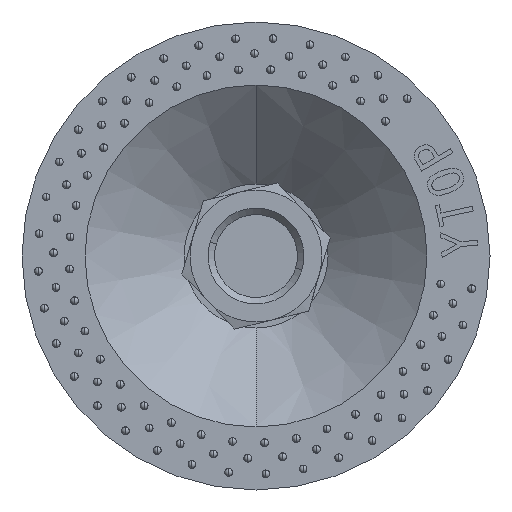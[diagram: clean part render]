
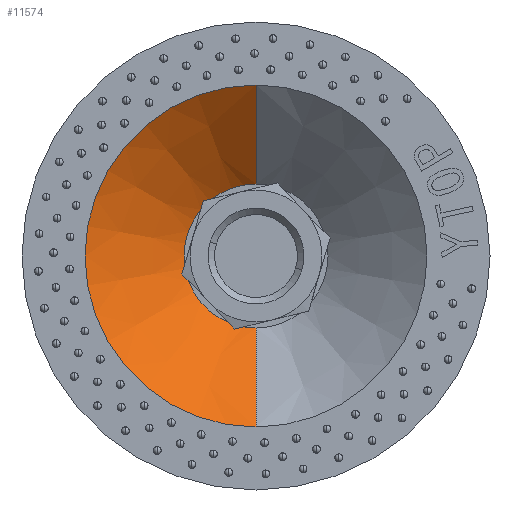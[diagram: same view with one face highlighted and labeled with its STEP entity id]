
A CAD part, front view. The second image highlights one B-rep face of the part: STEP entity #11574.
In plain terms, the highlighted conical face has half-angle 49.079 degrees and reference radius 28.5 mm.
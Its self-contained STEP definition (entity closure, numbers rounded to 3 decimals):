
#24 = LINE ( 'NONE', #17640, #8660 ) ;
#449 = EDGE_CURVE ( 'NONE', #18721, #15005, #18374, .T. ) ;
#882 = ORIENTED_EDGE ( 'NONE', *, *, #3978, .F. ) ;
#3881 = DIRECTION ( 'NONE',  ( 0., 0., 1. ) ) ;
#3978 = EDGE_CURVE ( 'NONE', #18721, #4418, #9339, .T. ) ;
#4338 = CARTESIAN_POINT ( 'NONE',  ( 0., 5.597, -28.5 ) ) ;
#4418 = VERTEX_POINT ( 'NONE', #4691 ) ;
#4691 = CARTESIAN_POINT ( 'NONE',  ( 0., 5.597, -28.5 ) ) ;
#5044 = VECTOR ( 'NONE', #5993, 1000. ) ;
#5108 = FACE_OUTER_BOUND ( 'NONE', #9588, .T. ) ;
#5993 = DIRECTION ( 'NONE',  ( 0., -0.655, -0.756 ) ) ;
#6347 = AXIS2_PLACEMENT_3D ( 'NONE', #18431, #15106, #3881 ) ;
#7340 = CARTESIAN_POINT ( 'NONE',  ( 0., 5.597, 0. ) ) ;
#8278 = CARTESIAN_POINT ( 'NONE',  ( 0., 19.9, 12. ) ) ;
#8660 = VECTOR ( 'NONE', #12699, 1000. ) ;
#9339 = LINE ( 'NONE', #4338, #5044 ) ;
#9588 = EDGE_LOOP ( 'NONE', ( #18000, #13217, #18410, #882 ) ) ;
#9630 = CARTESIAN_POINT ( 'NONE',  ( 0., 19.9, -12. ) ) ;
#10581 = DIRECTION ( 'NONE',  ( 0., 1., 0. ) ) ;
#11443 = CARTESIAN_POINT ( 'NONE',  ( 0., 5.597, 0. ) ) ;
#11574 = ADVANCED_FACE ( 'NONE', ( #5108 ), #15146, .F. ) ;
#11703 = CIRCLE ( 'NONE', #14765, 28.5 ) ;
#11897 = AXIS2_PLACEMENT_3D ( 'NONE', #11443, #16314, #14749 ) ;
#12699 = DIRECTION ( 'NONE',  ( 0., -0.655, 0.756 ) ) ;
#12710 = VERTEX_POINT ( 'NONE', #20707 ) ;
#13217 = ORIENTED_EDGE ( 'NONE', *, *, #15350, .T. ) ;
#14229 = EDGE_CURVE ( 'NONE', #4418, #12710, #11703, .T. ) ;
#14749 = DIRECTION ( 'NONE',  ( 0., 0., -1. ) ) ;
#14765 = AXIS2_PLACEMENT_3D ( 'NONE', #7340, #10581, #18626 ) ;
#15005 = VERTEX_POINT ( 'NONE', #8278 ) ;
#15106 = DIRECTION ( 'NONE',  ( 0., 1., 0. ) ) ;
#15146 = CONICAL_SURFACE ( 'NONE', #11897, 28.5, 0.857 ) ;
#15350 = EDGE_CURVE ( 'NONE', #15005, #12710, #24, .T. ) ;
#16314 = DIRECTION ( 'NONE',  ( 0., -1., 0. ) ) ;
#17640 = CARTESIAN_POINT ( 'NONE',  ( 0., 5.597, 28.5 ) ) ;
#18000 = ORIENTED_EDGE ( 'NONE', *, *, #449, .T. ) ;
#18374 = CIRCLE ( 'NONE', #6347, 12. ) ;
#18410 = ORIENTED_EDGE ( 'NONE', *, *, #14229, .F. ) ;
#18431 = CARTESIAN_POINT ( 'NONE',  ( 0., 19.9, 0. ) ) ;
#18626 = DIRECTION ( 'NONE',  ( 0., 0., 1. ) ) ;
#18721 = VERTEX_POINT ( 'NONE', #9630 ) ;
#20707 = CARTESIAN_POINT ( 'NONE',  ( 0., 5.597, 28.5 ) ) ;
